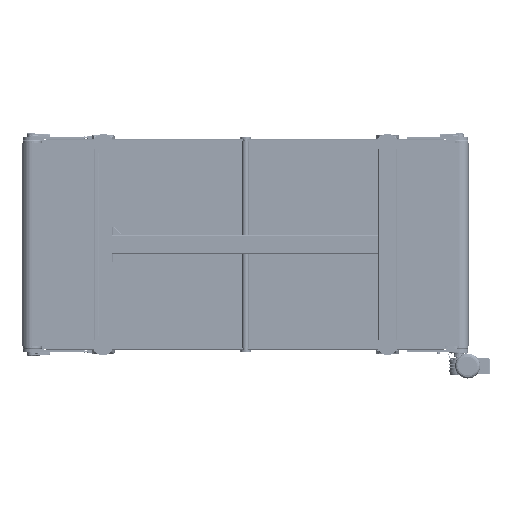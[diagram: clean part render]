
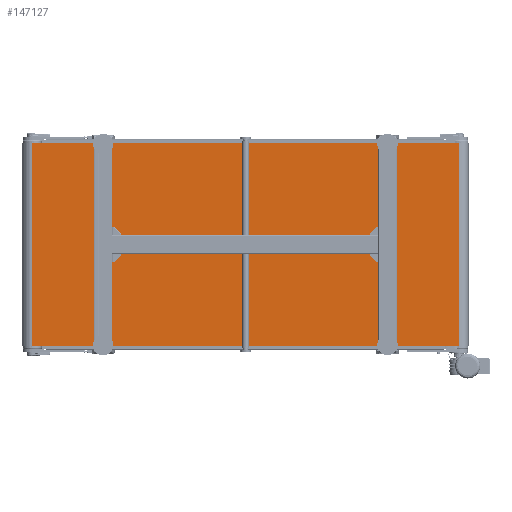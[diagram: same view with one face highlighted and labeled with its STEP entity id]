
A CAD part, front view. The second image highlights one B-rep face of the part: STEP entity #147127.
In plain terms, the highlighted planar face has unit normal (0, -1, 0).
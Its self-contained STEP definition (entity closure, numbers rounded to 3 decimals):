
#29 = ORIENTED_EDGE ( 'NONE', *, *, #174811, .F. ) ;
#7600 = LINE ( 'NONE', #187179, #168341 ) ;
#12037 = AXIS2_PLACEMENT_3D ( 'NONE', #110478, #233634, #216207 ) ;
#17244 = EDGE_CURVE ( 'NONE', #62475, #256236, #62548, .T. ) ;
#18977 = VECTOR ( 'NONE', #243909, 1000. ) ;
#35329 = VERTEX_POINT ( 'NONE', #183100 ) ;
#38537 = CARTESIAN_POINT ( 'NONE',  ( -1050., -49.5, -500. ) ) ;
#50303 = ORIENTED_EDGE ( 'NONE', *, *, #139508, .T. ) ;
#60753 = ORIENTED_EDGE ( 'NONE', *, *, #17244, .T. ) ;
#62475 = VERTEX_POINT ( 'NONE', #86174 ) ;
#62548 = LINE ( 'NONE', #165635, #71270 ) ;
#71270 = VECTOR ( 'NONE', #121536, 1000. ) ;
#86174 = CARTESIAN_POINT ( 'NONE',  ( -1050., -49.5, 500. ) ) ;
#110478 = CARTESIAN_POINT ( 'NONE',  ( -1050., -49.5, 500. ) ) ;
#116170 = VECTOR ( 'NONE', #240717, 1000. ) ;
#121536 = DIRECTION ( 'NONE',  ( 0., 0., -1. ) ) ;
#139508 = EDGE_CURVE ( 'NONE', #256236, #35329, #182344, .T. ) ;
#147127 = ADVANCED_FACE ( 'NONE', ( #153298 ), #252405, .F. ) ;
#153298 = FACE_OUTER_BOUND ( 'NONE', #174652, .T. ) ;
#159057 = LINE ( 'NONE', #162994, #116170 ) ;
#162239 = CARTESIAN_POINT ( 'NONE',  ( -1050., -49.5, -500. ) ) ;
#162994 = CARTESIAN_POINT ( 'NONE',  ( -1050., -49.5, 500. ) ) ;
#165635 = CARTESIAN_POINT ( 'NONE',  ( -1050., -49.5, 500. ) ) ;
#168341 = VECTOR ( 'NONE', #246105, 1000. ) ;
#174652 = EDGE_LOOP ( 'NONE', ( #50303, #29, #224374, #60753 ) ) ;
#174811 = EDGE_CURVE ( 'NONE', #179051, #35329, #7600, .T. ) ;
#179051 = VERTEX_POINT ( 'NONE', #248282 ) ;
#182344 = LINE ( 'NONE', #162239, #18977 ) ;
#183100 = CARTESIAN_POINT ( 'NONE',  ( 1050., -49.5, -500. ) ) ;
#187179 = CARTESIAN_POINT ( 'NONE',  ( 1050., -49.5, 500. ) ) ;
#216207 = DIRECTION ( 'NONE',  ( 0., 0., 1. ) ) ;
#224374 = ORIENTED_EDGE ( 'NONE', *, *, #245487, .F. ) ;
#233634 = DIRECTION ( 'NONE',  ( 0., 1., 0. ) ) ;
#240717 = DIRECTION ( 'NONE',  ( 1., 0., 0. ) ) ;
#243909 = DIRECTION ( 'NONE',  ( 1., 0., 0. ) ) ;
#245487 = EDGE_CURVE ( 'NONE', #62475, #179051, #159057, .T. ) ;
#246105 = DIRECTION ( 'NONE',  ( 0., 0., -1. ) ) ;
#248282 = CARTESIAN_POINT ( 'NONE',  ( 1050., -49.5, 500. ) ) ;
#252405 = PLANE ( 'NONE',  #12037 ) ;
#256236 = VERTEX_POINT ( 'NONE', #38537 ) ;
